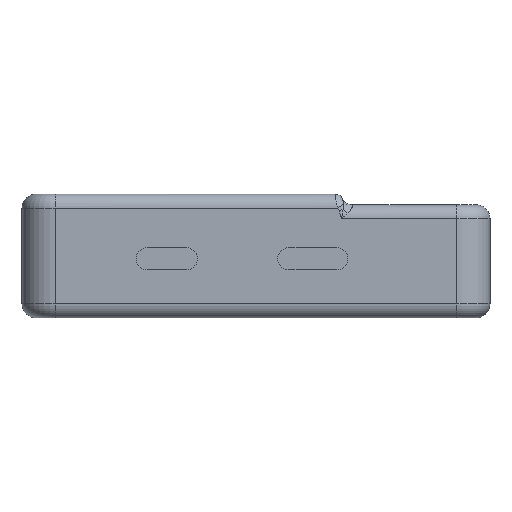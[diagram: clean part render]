
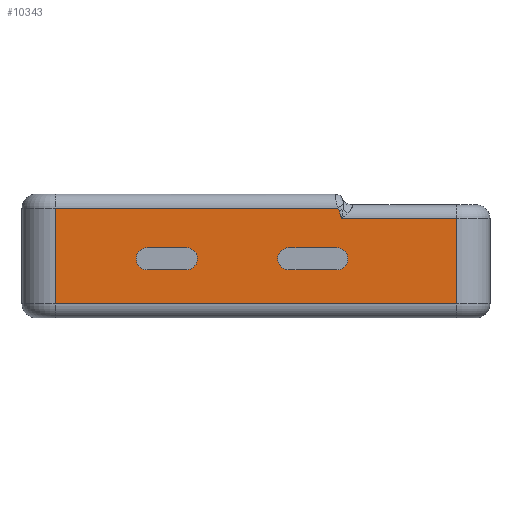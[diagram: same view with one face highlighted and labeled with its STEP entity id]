
A CAD part, left-side view. The second image highlights one B-rep face of the part: STEP entity #10343.
In plain terms, the highlighted planar face has unit normal (-1, 0, 0).
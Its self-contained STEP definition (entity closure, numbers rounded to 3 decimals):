
#100=FACE_BOUND('',#3121,.T.);
#101=FACE_BOUND('',#3122,.T.);
#234=PLANE('',#11689);
#403=LINE('',#16307,#973);
#414=LINE('',#16347,#984);
#449=LINE('',#17247,#1019);
#450=LINE('',#17249,#1020);
#791=LINE('',#21184,#1361);
#792=LINE('',#21186,#1362);
#793=LINE('',#21188,#1363);
#794=LINE('',#21190,#1364);
#795=LINE('',#21191,#1365);
#973=VECTOR('',#12427,10.);
#984=VECTOR('',#12476,10.);
#1019=VECTOR('',#12865,10.);
#1020=VECTOR('',#12868,10.);
#1361=VECTOR('',#14889,10.);
#1362=VECTOR('',#14890,10.);
#1363=VECTOR('',#14891,10.);
#1364=VECTOR('',#14892,10.);
#1365=VECTOR('',#14893,10.);
#2414=FACE_OUTER_BOUND('',#3120,.T.);
#3120=EDGE_LOOP('',(#9431,#9432,#9433,#9434,#9435,#9436,#9437));
#3121=EDGE_LOOP('',(#9438,#9439,#9440,#9441));
#3122=EDGE_LOOP('',(#9442,#9443,#9444,#9445));
#3334=B_SPLINE_CURVE_WITH_KNOTS('',3,(#20815,#20816,#20817,#20818,#20819,
#20820),.UNSPECIFIED.,.F.,.F.,(4,2,4),(0.,0.147,0.148),
 .UNSPECIFIED.);
#3340=B_SPLINE_CURVE_WITH_KNOTS('',3,(#20991,#20992,#20993,#20994,#20995,
#20996,#20997,#20998,#20999,#21000,#21001,#21002,#21003),.UNSPECIFIED.,
 .F.,.F.,(4,1,1,1,1,1,1,1,1,1,4),(-0.057,-0.041,
-0.025,-0.016,-0.008,-0.004,
-0.002,-0.001,-0.001,0.,
0.),.UNSPECIFIED.);
#3496=CIRCLE('',#10651,2.);
#3505=CIRCLE('',#10670,2.);
#3506=CIRCLE('',#10674,2.);
#3507=CIRCLE('',#10676,2.);
#4379=VERTEX_POINT('',#16299);
#4380=VERTEX_POINT('',#16301);
#4381=VERTEX_POINT('',#16305);
#4389=VERTEX_POINT('',#16339);
#4390=VERTEX_POINT('',#16341);
#4391=VERTEX_POINT('',#16345);
#4392=VERTEX_POINT('',#16351);
#4393=VERTEX_POINT('',#16355);
#4993=VERTEX_POINT('',#20812);
#4994=VERTEX_POINT('',#20814);
#4995=VERTEX_POINT('',#20857);
#5005=VERTEX_POINT('',#21183);
#5006=VERTEX_POINT('',#21185);
#5007=VERTEX_POINT('',#21187);
#5008=VERTEX_POINT('',#21189);
#5383=EDGE_CURVE('',#4380,#4379,#3496,.T.);
#5386=EDGE_CURVE('',#4379,#4381,#403,.T.);
#5403=EDGE_CURVE('',#4390,#4389,#3505,.T.);
#5406=EDGE_CURVE('',#4389,#4391,#414,.T.);
#5409=EDGE_CURVE('',#4381,#4392,#3506,.T.);
#5411=EDGE_CURVE('',#4391,#4393,#3507,.T.);
#5602=EDGE_CURVE('',#4392,#4380,#449,.T.);
#5603=EDGE_CURVE('',#4393,#4390,#450,.T.);
#6489=EDGE_CURVE('',#4993,#4994,#3334,.T.);
#6501=EDGE_CURVE('',#4995,#4993,#3340,.T.);
#6508=EDGE_CURVE('',#5005,#4995,#791,.T.);
#6509=EDGE_CURVE('',#5006,#5005,#792,.T.);
#6510=EDGE_CURVE('',#5007,#5006,#793,.T.);
#6511=EDGE_CURVE('',#5007,#5008,#794,.T.);
#6512=EDGE_CURVE('',#4994,#5008,#795,.T.);
#9431=ORIENTED_EDGE('',*,*,#6489,.F.);
#9432=ORIENTED_EDGE('',*,*,#6501,.F.);
#9433=ORIENTED_EDGE('',*,*,#6508,.F.);
#9434=ORIENTED_EDGE('',*,*,#6509,.F.);
#9435=ORIENTED_EDGE('',*,*,#6510,.F.);
#9436=ORIENTED_EDGE('',*,*,#6511,.T.);
#9437=ORIENTED_EDGE('',*,*,#6512,.F.);
#9438=ORIENTED_EDGE('',*,*,#5386,.T.);
#9439=ORIENTED_EDGE('',*,*,#5409,.T.);
#9440=ORIENTED_EDGE('',*,*,#5602,.T.);
#9441=ORIENTED_EDGE('',*,*,#5383,.T.);
#9442=ORIENTED_EDGE('',*,*,#5603,.T.);
#9443=ORIENTED_EDGE('',*,*,#5403,.T.);
#9444=ORIENTED_EDGE('',*,*,#5406,.T.);
#9445=ORIENTED_EDGE('',*,*,#5411,.T.);
#10343=ADVANCED_FACE('',(#2414,#100,#101),#234,.T.);
#10651=AXIS2_PLACEMENT_3D('',#16302,#12421,#12422);
#10670=AXIS2_PLACEMENT_3D('',#16342,#12470,#12471);
#10674=AXIS2_PLACEMENT_3D('',#16353,#12483,#12484);
#10676=AXIS2_PLACEMENT_3D('',#16357,#12488,#12489);
#11689=AXIS2_PLACEMENT_3D('',#21182,#14887,#14888);
#12421=DIRECTION('center_axis',(1.,0.,0.));
#12422=DIRECTION('ref_axis',(0.,0.,1.));
#12427=DIRECTION('',(0.,-1.,0.));
#12470=DIRECTION('center_axis',(1.,0.,0.));
#12471=DIRECTION('ref_axis',(0.,0.,-1.));
#12476=DIRECTION('',(0.,-1.,0.));
#12483=DIRECTION('center_axis',(1.,0.,0.));
#12484=DIRECTION('ref_axis',(0.,0.,-1.));
#12488=DIRECTION('center_axis',(1.,0.,0.));
#12489=DIRECTION('ref_axis',(0.,0.,1.));
#12865=DIRECTION('',(0.,1.,0.));
#12868=DIRECTION('',(0.,1.,0.));
#14887=DIRECTION('center_axis',(-1.,0.,0.));
#14888=DIRECTION('ref_axis',(0.,-1.,0.));
#14889=DIRECTION('',(0.,-1.,0.));
#14890=DIRECTION('',(0.,0.,1.));
#14891=DIRECTION('',(0.,1.,0.));
#14892=DIRECTION('',(0.,0.,1.));
#14893=DIRECTION('',(0.,-1.,0.));
#16299=CARTESIAN_POINT('',(0.,61.5,12.6));
#16301=CARTESIAN_POINT('',(0.,61.5,8.6));
#16302=CARTESIAN_POINT('Origin',(0.,61.5,10.6));
#16305=CARTESIAN_POINT('',(0.,54.5,12.6));
#16307=CARTESIAN_POINT('',(0.,69.75,12.6));
#16339=CARTESIAN_POINT('',(0.,36.1,12.6));
#16341=CARTESIAN_POINT('',(0.,36.1,8.6));
#16342=CARTESIAN_POINT('Origin',(0.,36.1,
10.6));
#16345=CARTESIAN_POINT('',(0.,27.5,12.6));
#16347=CARTESIAN_POINT('',(0.,52.75,12.6));
#16351=CARTESIAN_POINT('',(0.,54.5,8.6));
#16353=CARTESIAN_POINT('Origin',(0.,54.5,10.6));
#16355=CARTESIAN_POINT('',(0.,27.5,8.6));
#16357=CARTESIAN_POINT('Origin',(0.,27.5,
10.6));
#17247=CARTESIAN_POINT('',(0.,66.25,8.6));
#17249=CARTESIAN_POINT('',(0.,57.05,8.6));
#20812=CARTESIAN_POINT('',(0.,27.047,19.216));
#20814=CARTESIAN_POINT('',(0.,26.679,17.788));
#20815=CARTESIAN_POINT('Ctrl Pts',(0.,27.047,
19.216));
#20816=CARTESIAN_POINT('Ctrl Pts',(0.,26.906,
18.748));
#20817=CARTESIAN_POINT('Ctrl Pts',(0.,26.796,
18.271));
#20818=CARTESIAN_POINT('Ctrl Pts',(0.,26.68,
17.793));
#20819=CARTESIAN_POINT('Ctrl Pts',(0.,26.68,
17.79));
#20820=CARTESIAN_POINT('Ctrl Pts',(0.,26.679,17.788));
#20857=CARTESIAN_POINT('',(0.,27.351,19.7));
#20991=CARTESIAN_POINT('Ctrl Pts',(0.,27.351,
19.7));
#20992=CARTESIAN_POINT('Ctrl Pts',(0.,27.321,
19.655));
#20993=CARTESIAN_POINT('Ctrl Pts',(0.,27.26,
19.565));
#20994=CARTESIAN_POINT('Ctrl Pts',(0.,27.183,
19.452));
#20995=CARTESIAN_POINT('Ctrl Pts',(0.,27.124,
19.361));
#20996=CARTESIAN_POINT('Ctrl Pts',(0.,27.088,
19.302));
#20997=CARTESIAN_POINT('Ctrl Pts',(0.,27.066,
19.26));
#20998=CARTESIAN_POINT('Ctrl Pts',(0.,27.056,
19.239));
#20999=CARTESIAN_POINT('Ctrl Pts',(0.,27.051,
19.228));
#21000=CARTESIAN_POINT('Ctrl Pts',(0.,27.049,
19.222));
#21001=CARTESIAN_POINT('Ctrl Pts',(0.,27.048,
19.219));
#21002=CARTESIAN_POINT('Ctrl Pts',(0.,27.048,
19.217));
#21003=CARTESIAN_POINT('Ctrl Pts',(0.,27.047,
19.216));
#21182=CARTESIAN_POINT('Origin',(0.,78.,0.));
#21183=CARTESIAN_POINT('',(0.,78.,19.7));
#21184=CARTESIAN_POINT('',(0.,60.,19.7));
#21185=CARTESIAN_POINT('',(0.,78.,2.5));
#21186=CARTESIAN_POINT('',(0.,78.,0.));
#21187=CARTESIAN_POINT('',(0.,6.,2.5));
#21188=CARTESIAN_POINT('',(0.,60.,2.5));
#21189=CARTESIAN_POINT('',(0.,6.,17.788));
#21190=CARTESIAN_POINT('',(0.,6.,0.));
#21191=CARTESIAN_POINT('',(0.,45.67,17.788));
